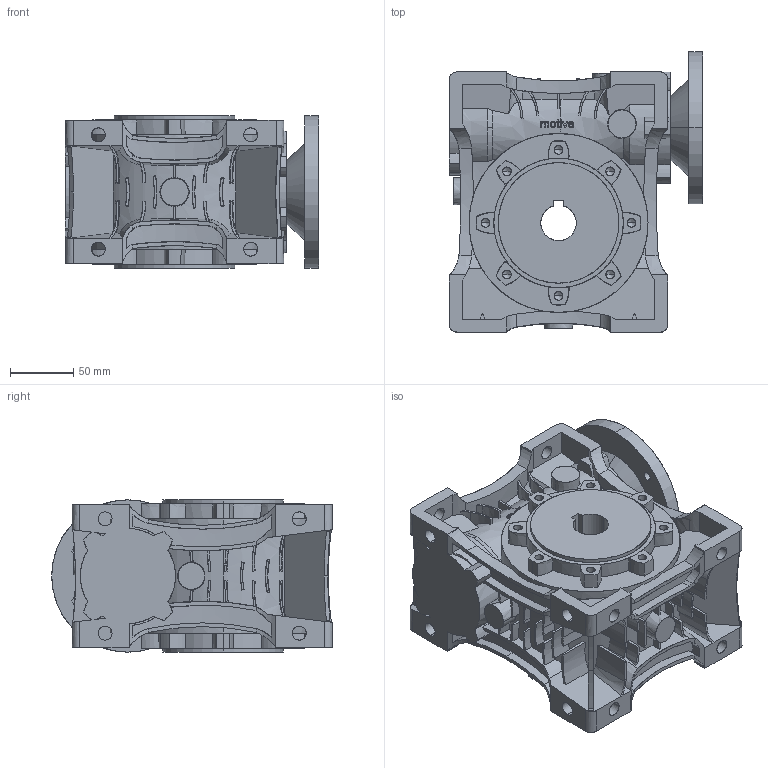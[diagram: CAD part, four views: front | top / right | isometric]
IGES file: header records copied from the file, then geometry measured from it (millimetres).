
Start section: SolidWorks IGES file using analytic representation for surfaces
Global section: file name: E:\Final Worm GBX For Motive\Worm GBX 3D\BOX075\BOX75PAM80B14.igs; native system: SolidWorks 2012; preprocessor: SolidWorks 2012; author: Tahir Momin; date: 130906.093446; units: millimetre
Bounding box: 199.5 x 221 x 120 mm (x, y, z)
Surface area: 312072.5 mm2 (no closed solid volume)
Topology: 0 solids, 0 shells, 1405 faces, 11749 edges, 11717 vertices
Faces by surface type: revolution 736, bspline 669
